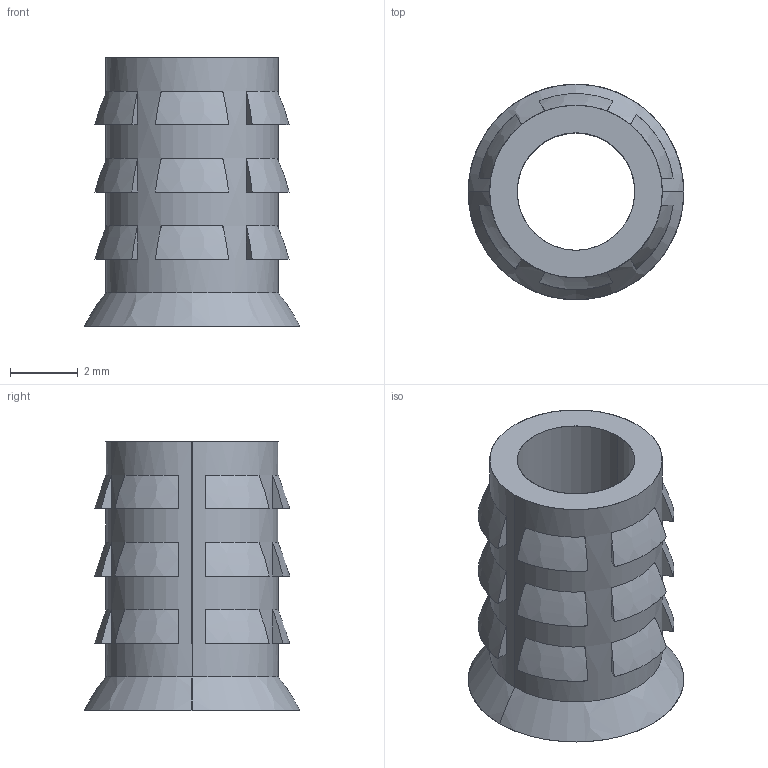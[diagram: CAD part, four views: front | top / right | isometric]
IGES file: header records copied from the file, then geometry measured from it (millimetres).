
Start section: SolidWorks IGES file using analytic representation for surfaces
Global section: file name: G:\thermofab project\INSERT\insert project\INSERT 3D\insert 8-32.IGS; native system: SolidWorks 2015; preprocessor: SolidWorks 2015; author: Administrator; date: 170809.194050; units: millimetre
Bounding box: 6.35 x 6.35 x 7.92 mm (x, y, z)
Surface area: 274.1 mm2 (no closed solid volume)
Topology: 0 solids, 0 shells, 82 faces, 592 edges, 592 vertices
Faces by surface type: bspline 76, revolution 6
